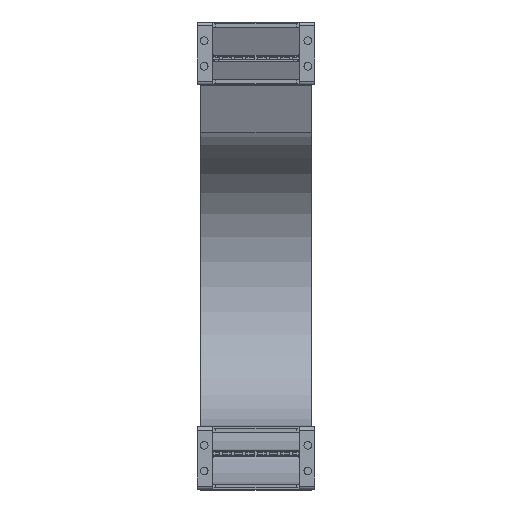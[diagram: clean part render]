
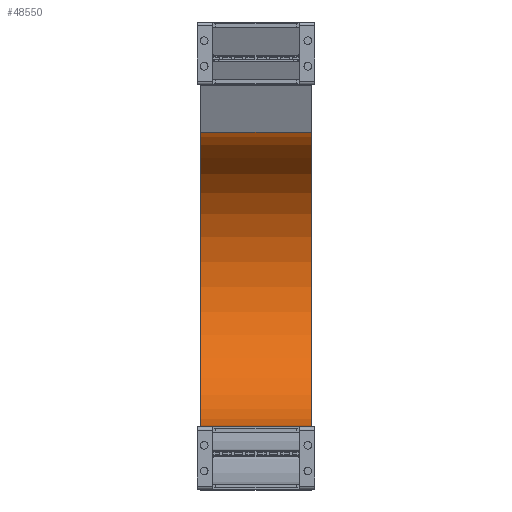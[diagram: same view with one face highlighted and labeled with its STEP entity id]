
A CAD part, top view. The second image highlights one B-rep face of the part: STEP entity #48550.
In plain terms, the highlighted cylindrical face has radius 127 mm (diameter 254 mm), a partial arc.
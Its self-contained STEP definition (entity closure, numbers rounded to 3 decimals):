
#47702=DIRECTION('',(-1.,0.,0.));
#47703=VECTOR('',#47702,95.);
#47704=CARTESIAN_POINT('',(47.5,54.,-500.));
#47705=LINE('',#47704,#47703);
#47716=DIRECTION('',(-1.,0.,0.));
#47717=VECTOR('',#47716,95.);
#47718=CARTESIAN_POINT('',(47.5,307.393,-512.406));
#47719=LINE('',#47718,#47717);
#47723=CARTESIAN_POINT('',(47.5,181.,-500.));
#47724=DIRECTION('',(-1.,0.,0.));
#47725=DIRECTION('',(0.,0.995,-0.098));
#47726=AXIS2_PLACEMENT_3D('',#47723,#47724,#47725);
#47802=CARTESIAN_POINT('',(-47.5,181.,-500.));
#47803=DIRECTION('',(-1.,0.,0.));
#47804=DIRECTION('',(0.,0.995,-0.098));
#47805=AXIS2_PLACEMENT_3D('',#47802,#47803,#47804);
#47924=CARTESIAN_POINT('',(47.5,307.393,-512.406));
#47925=CARTESIAN_POINT('',(-47.5,307.393,-512.406));
#47926=VERTEX_POINT('',#47924);
#47927=VERTEX_POINT('',#47925);
#47948=CARTESIAN_POINT('',(47.5,54.,-500.));
#47949=CARTESIAN_POINT('',(-47.5,54.,-500.));
#47950=VERTEX_POINT('',#47948);
#47951=VERTEX_POINT('',#47949);
#48536=CARTESIAN_POINT('',(1.,181.,-500.));
#48537=DIRECTION('',(-1.,0.,0.));
#48538=DIRECTION('',(0.,-0.995,0.098));
#48539=AXIS2_PLACEMENT_3D('',#48536,#48537,#48538);
#48540=CYLINDRICAL_SURFACE('',#48539,127.);
#48542=ORIENTED_EDGE('',*,*,#48541,.F.);
#48544=ORIENTED_EDGE('',*,*,#48543,.T.);
#48545=ORIENTED_EDGE('',*,*,#48519,.T.);
#48547=ORIENTED_EDGE('',*,*,#48546,.F.);
#48548=EDGE_LOOP('',(#48542,#48544,#48545,#48547));
#48549=FACE_OUTER_BOUND('',#48548,.F.);
#47727=CIRCLE('',#47726,127.);
#47806=CIRCLE('',#47805,127.);
#48519=EDGE_CURVE('',#47950,#47951,#47705,.T.);
#48541=EDGE_CURVE('',#47926,#47927,#47719,.T.);
#48543=EDGE_CURVE('',#47926,#47950,#47727,.T.);
#48546=EDGE_CURVE('',#47927,#47951,#47806,.T.);
#48550=ADVANCED_FACE('',(#48549),#48540,.F.);
